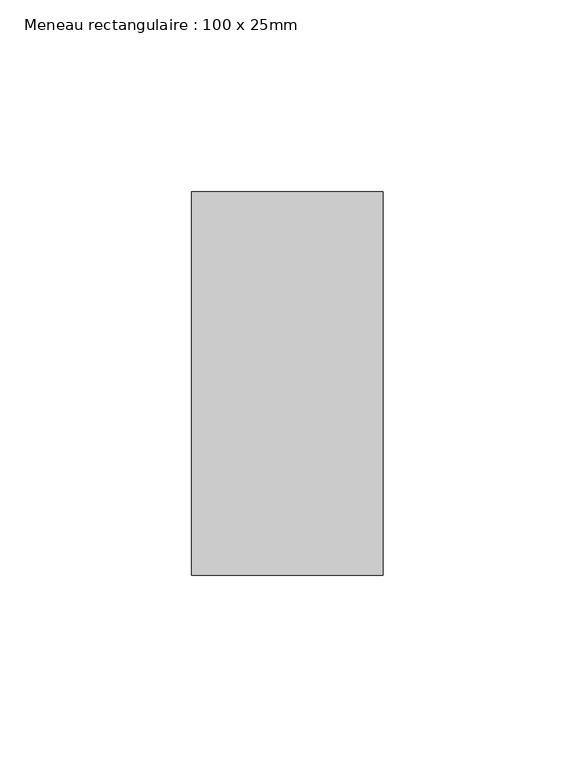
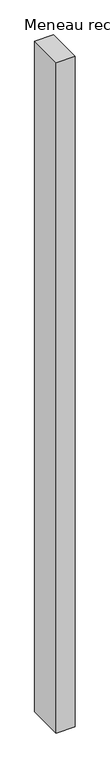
"""IFC4 building model written with IfcOpenShell, lengths in millimetres: member geometry, Meneau rectangulaire : 100 x 25mm."""

from ifc_helpers import new_model, si_unit, frame, origin, place, context, project, spatial, polyline, outline, extrude, source, transform, mapped, element, save


def meneau_rectangulaire_100_x_25mm_a0e11be1(model_context):
    return source(origin(), model_context, "Body", "SweptSolid", [
        extrude(outline(polyline([(0.0, 50.0), (0.0, -50.0), (-50.0, -50.0), (-50.0, 50.0), (0.0, 50.0)])), frame((0.0, 0.0, -1897.0739855), z_axis=(0.0, 0.0, 1.0), x_axis=(1.0, 0.0, 0.0)), (0.0, 0.0, 1.0), 1897.0739855),
    ])


if __name__ == "__main__":
    model = new_model("IFC4")
    model_context = context("Model", 3, world=origin())
    ifc_project = project(units=[si_unit("LENGTHUNIT", "METRE", prefix="MILLI")], contexts=[model_context])
    site = spatial("IfcSite", under=ifc_project)
    building = spatial("IfcBuilding", under=site)
    placement = place(None, origin())
    meneau_rectangulaire_100_x_25mm_shape = meneau_rectangulaire_100_x_25mm_a0e11be1(model_context)
    element("IfcMember", 1, ObjectType="Meneau rectangulaire : 100 x 25mm", at=placement, inside=building, context=model_context, shape_type="MappedRepresentation", body=[
        mapped(meneau_rectangulaire_100_x_25mm_shape, transform((0.0, 0.0, 0.0), x_axis=(1.0, 0.0, 0.0), y_axis=(0.0, 1.0, 0.0), z_axis=(0.0, 0.0, 1.0))),
    ])
    save(model, "model.ifc")
